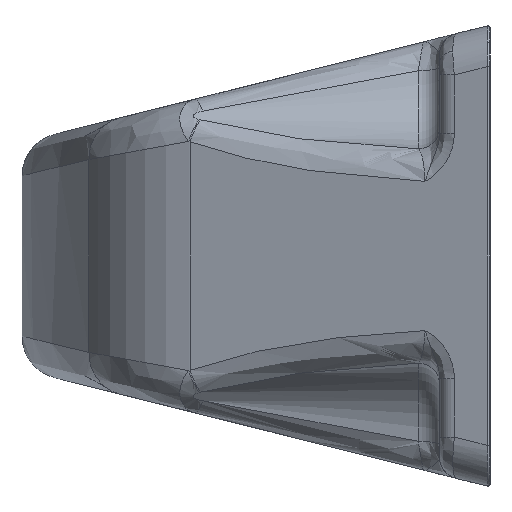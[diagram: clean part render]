
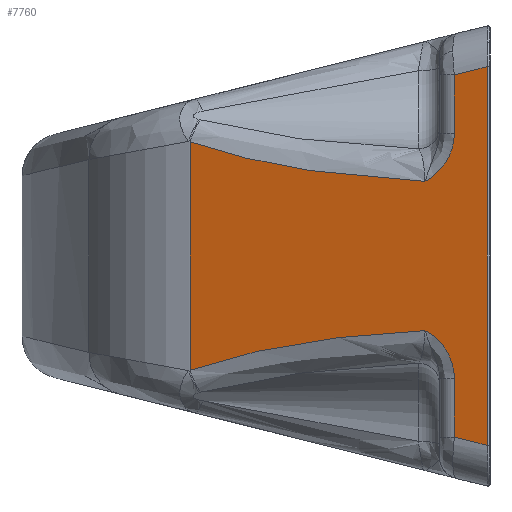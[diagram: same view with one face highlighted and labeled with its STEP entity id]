
A CAD part, left-side view. The second image highlights one B-rep face of the part: STEP entity #7760.
In plain terms, the highlighted planar face has unit normal (-0.949, 0.315, 0).
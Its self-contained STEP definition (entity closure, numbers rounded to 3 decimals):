
#208 = CARTESIAN_POINT ( 'NONE',  ( -0.27, -0.813, -39.496 ) ) ;
#301 = VERTEX_POINT ( 'NONE', #10303 ) ;
#384 = VERTEX_POINT ( 'NONE', #4967 ) ;
#432 = EDGE_CURVE ( 'NONE', #11619, #301, #6466, .T. ) ;
#598 = CARTESIAN_POINT ( 'NONE',  ( 1.281, 3.858, -12.334 ) ) ;
#642 = VECTOR ( 'NONE', #8807, 1000. ) ;
#747 = CARTESIAN_POINT ( 'NONE',  ( 1.54, 4.635, -29.624 ) ) ;
#1077 = VECTOR ( 'NONE', #11692, 1000. ) ;
#1112 = ORIENTED_EDGE ( 'NONE', *, *, #8259, .T. ) ;
#1218 = VECTOR ( 'NONE', #2797, 1000. ) ;
#1456 = EDGE_CURVE ( 'NONE', #9400, #384, #5860, .T. ) ;
#1556 = CARTESIAN_POINT ( 'NONE',  ( 1.397, 4.207, -12.931 ) ) ;
#1609 = ORIENTED_EDGE ( 'NONE', *, *, #1636, .T. ) ;
#1636 = EDGE_CURVE ( 'NONE', #11592, #9516, #7995, .T. ) ;
#1676 = FACE_OUTER_BOUND ( 'NONE', #10222, .T. ) ;
#1710 = CARTESIAN_POINT ( 'NONE',  ( 1.397, 4.207, -30.169 ) ) ;
#2112 = B_SPLINE_CURVE_WITH_KNOTS ( 'NONE', 3,
 ( #8176, #2476, #5361, #12070, #6331, #598, #7275, #1556, #8223, #2521, #9181, #3480, #10145, #4439, #11119, #5404, #12111, #6378 ),
 .UNSPECIFIED., .F., .F.,
 ( 4, 2, 2, 2, 2, 2, 2, 2, 4 ),
 ( 0., 0.001, 0.002, 0.003, 0.004, 0.004, 0.005, 0.005, 0.006 ),
 .UNSPECIFIED. ) ;
#2384 = LINE ( 'NONE', #7951, #4630 ) ;
#2476 = CARTESIAN_POINT ( 'NONE',  ( 1.106, 3.33, -10.55 ) ) ;
#2521 = CARTESIAN_POINT ( 'NONE',  ( 1.54, 4.635, -13.476 ) ) ;
#2669 = CARTESIAN_POINT ( 'NONE',  ( 1.281, 3.858, -30.766 ) ) ;
#2797 = DIRECTION ( 'NONE',  ( 0.307, 0.923, -0.231 ) ) ;
#2882 =( BOUNDED_CURVE ( )  B_SPLINE_CURVE ( 3, ( #3627, #11198, #11276, #5557 ),
 .UNSPECIFIED., .F., .F. ) 
 B_SPLINE_CURVE_WITH_KNOTS ( ( 4, 4 ),
 ( 4.834, 5.529 ),
 .UNSPECIFIED. ) 
 CURVE ( )  GEOMETRIC_REPRESENTATION_ITEM ( )  RATIONAL_B_SPLINE_CURVE ( ( 1., 0.96, 0.96, 1. ) ) 
 REPRESENTATION_ITEM ( '' )  );
#3060 = CARTESIAN_POINT ( 'NONE',  ( 0.087, 0.263, -3.808 ) ) ;
#3174 = EDGE_CURVE ( 'NONE', #301, #5972, #10760, .T. ) ;
#3405 = ORIENTED_EDGE ( 'NONE', *, *, #7318, .T. ) ;
#3467 = VERTEX_POINT ( 'NONE', #6788 ) ;
#3480 = CARTESIAN_POINT ( 'NONE',  ( 1.702, 5.125, -13.951 ) ) ;
#3596 = CARTESIAN_POINT ( 'NONE',  ( 1.106, 3.33, -38.458 ) ) ;
#3627 = CARTESIAN_POINT ( 'NONE',  ( 2.016, 6.07, -14.58 ) ) ;
#3628 = CARTESIAN_POINT ( 'NONE',  ( 1.192, 3.589, -31.412 ) ) ;
#3766 = LINE ( 'NONE', #6559, #1218 ) ;
#4058 = EDGE_CURVE ( 'NONE', #384, #3467, #2112, .T. ) ;
#4406 = ORIENTED_EDGE ( 'NONE', *, *, #4058, .T. ) ;
#4439 = CARTESIAN_POINT ( 'NONE',  ( 1.854, 5.581, -14.29 ) ) ;
#4593 = CARTESIAN_POINT ( 'NONE',  ( 1.106, 3.33, -32.55 ) ) ;
#4630 = VECTOR ( 'NONE', #6410, 1000. ) ;
#4926 = DIRECTION ( 'NONE',  ( 0., 0., -1. ) ) ;
#4967 = CARTESIAN_POINT ( 'NONE',  ( 1.106, 3.33, -10.077 ) ) ;
#5052 = DIRECTION ( 'NONE',  ( -0.315, -0.949, 0. ) ) ;
#5277 = CARTESIAN_POINT ( 'NONE',  ( 9.3, 28., -10.889 ) ) ;
#5361 = CARTESIAN_POINT ( 'NONE',  ( 1.128, 3.396, -11.012 ) ) ;
#5380 = ORIENTED_EDGE ( 'NONE', *, *, #1456, .T. ) ;
#5404 = CARTESIAN_POINT ( 'NONE',  ( 1.95, 5.871, -14.471 ) ) ;
#5516 = CARTESIAN_POINT ( 'NONE',  ( 1.883, 5.669, -28.733 ) ) ;
#5557 = CARTESIAN_POINT ( 'NONE',  ( 9.3, 28., -10.889 ) ) ;
#5629 = LINE ( 'NONE', #5854, #10400 ) ;
#5663 = B_SPLINE_CURVE_WITH_KNOTS ( 'NONE', 3,
 ( #11235, #5516, #12228, #6480, #747, #7433, #1710, #8376, #2669, #9339, #3628, #10308, #4593, #11277 ),
 .UNSPECIFIED., .F., .F.,
 ( 4, 2, 2, 2, 2, 2, 4 ),
 ( 0., 0.001, 0.002, 0.003, 0.004, 0.004, 0.006 ),
 .UNSPECIFIED. ) ;
#5726 = ORIENTED_EDGE ( 'NONE', *, *, #3174, .T. ) ;
#5736 = EDGE_CURVE ( 'NONE', #6376, #11619, #2384, .T. ) ;
#5854 = CARTESIAN_POINT ( 'NONE',  ( 9.3, 28., -162.2 ) ) ;
#5860 = LINE ( 'NONE', #9662, #8060 ) ;
#5972 = VERTEX_POINT ( 'NONE', #8895 ) ;
#5977 = PLANE ( 'NONE',  #8863 ) ;
#6331 = CARTESIAN_POINT ( 'NONE',  ( 1.219, 3.67, -11.91 ) ) ;
#6376 = VERTEX_POINT ( 'NONE', #8759 ) ;
#6378 = CARTESIAN_POINT ( 'NONE',  ( 2.016, 6.07, -14.58 ) ) ;
#6390 = CARTESIAN_POINT ( 'NONE',  ( 2.016, 6.07, -28.52 ) ) ;
#6410 = DIRECTION ( 'NONE',  ( 0., 0., -1. ) ) ;
#6466 = LINE ( 'NONE', #208, #1077 ) ;
#6480 = CARTESIAN_POINT ( 'NONE',  ( 1.592, 4.792, -29.458 ) ) ;
#6489 = CARTESIAN_POINT ( 'NONE',  ( 9.3, 28., -32.211 ) ) ;
#6559 = CARTESIAN_POINT ( 'NONE',  ( 1.291, 3.887, -4.782 ) ) ;
#6788 = CARTESIAN_POINT ( 'NONE',  ( 2.016, 6.07, -14.58 ) ) ;
#6811 = DIRECTION ( 'NONE',  ( 0., 0., 1. ) ) ;
#6930 = VERTEX_POINT ( 'NONE', #5277 ) ;
#7275 = CARTESIAN_POINT ( 'NONE',  ( 1.317, 3.965, -12.538 ) ) ;
#7318 = EDGE_CURVE ( 'NONE', #5972, #9400, #3766, .T. ) ;
#7385 = CARTESIAN_POINT ( 'NONE',  ( 1.106, 3.33, -4.642 ) ) ;
#7433 = CARTESIAN_POINT ( 'NONE',  ( 1.442, 4.343, -29.979 ) ) ;
#7760 = ADVANCED_FACE ( 'NONE', ( #1676 ), #5977, .T. ) ;
#7793 = ORIENTED_EDGE ( 'NONE', *, *, #9926, .T. ) ;
#7951 = CARTESIAN_POINT ( 'NONE',  ( 1.106, 3.33, -162.2 ) ) ;
#7995 =( BOUNDED_CURVE ( )  B_SPLINE_CURVE ( 3, ( #11984, #10157, #12122, #6390 ),
 .UNSPECIFIED., .F., .F. ) 
 B_SPLINE_CURVE_WITH_KNOTS ( ( 4, 4 ),
 ( 0.755, 1.449 ),
 .UNSPECIFIED. ) 
 CURVE ( )  GEOMETRIC_REPRESENTATION_ITEM ( )  RATIONAL_B_SPLINE_CURVE ( ( 1., 0.96, 0.96, 1. ) ) 
 REPRESENTATION_ITEM ( '' )  );
#8060 = VECTOR ( 'NONE', #4926, 1000. ) ;
#8138 = ORIENTED_EDGE ( 'NONE', *, *, #432, .T. ) ;
#8176 = CARTESIAN_POINT ( 'NONE',  ( 1.106, 3.33, -10.077 ) ) ;
#8223 = CARTESIAN_POINT ( 'NONE',  ( 1.442, 4.343, -13.121 ) ) ;
#8259 = EDGE_CURVE ( 'NONE', #9516, #6376, #5663, .T. ) ;
#8376 = CARTESIAN_POINT ( 'NONE',  ( 1.317, 3.965, -30.562 ) ) ;
#8759 = CARTESIAN_POINT ( 'NONE',  ( 1.106, 3.33, -33.023 ) ) ;
#8807 = DIRECTION ( 'NONE',  ( 0., 0., 1. ) ) ;
#8863 = AXIS2_PLACEMENT_3D ( 'NONE', #9785, #10751, #5052 ) ;
#8895 = CARTESIAN_POINT ( 'NONE',  ( 0.087, 0.263, -3.874 ) ) ;
#8919 = ORIENTED_EDGE ( 'NONE', *, *, #5736, .T. ) ;
#9181 = CARTESIAN_POINT ( 'NONE',  ( 1.592, 4.792, -13.642 ) ) ;
#9339 = CARTESIAN_POINT ( 'NONE',  ( 1.219, 3.67, -31.19 ) ) ;
#9400 = VERTEX_POINT ( 'NONE', #7385 ) ;
#9457 = CARTESIAN_POINT ( 'NONE',  ( 2.016, 6.07, -28.52 ) ) ;
#9516 = VERTEX_POINT ( 'NONE', #9457 ) ;
#9662 = CARTESIAN_POINT ( 'NONE',  ( 1.106, 3.33, -14.627 ) ) ;
#9785 = CARTESIAN_POINT ( 'NONE',  ( 0., 0., -162.2 ) ) ;
#9926 = EDGE_CURVE ( 'NONE', #3467, #6930, #2882, .T. ) ;
#10145 = CARTESIAN_POINT ( 'NONE',  ( 1.761, 5.301, -14.093 ) ) ;
#10157 = CARTESIAN_POINT ( 'NONE',  ( 7.358, 22.154, -30.146 ) ) ;
#10222 = EDGE_LOOP ( 'NONE', ( #8138, #5726, #3405, #5380, #4406, #7793, #10967, #1609, #1112, #8919 ) ) ;
#10303 = CARTESIAN_POINT ( 'NONE',  ( 0.087, 0.263, -39.226 ) ) ;
#10308 = CARTESIAN_POINT ( 'NONE',  ( 1.128, 3.396, -32.088 ) ) ;
#10400 = VECTOR ( 'NONE', #6811, 1000. ) ;
#10751 = DIRECTION ( 'NONE',  ( -0.949, 0.315, 0. ) ) ;
#10760 = LINE ( 'NONE', #3060, #642 ) ;
#10967 = ORIENTED_EDGE ( 'NONE', *, *, #12148, .F. ) ;
#11119 = CARTESIAN_POINT ( 'NONE',  ( 1.885, 5.677, -14.353 ) ) ;
#11198 = CARTESIAN_POINT ( 'NONE',  ( 4.83, 14.541, -14.236 ) ) ;
#11235 = CARTESIAN_POINT ( 'NONE',  ( 2.016, 6.07, -28.52 ) ) ;
#11276 = CARTESIAN_POINT ( 'NONE',  ( 7.358, 22.154, -12.954 ) ) ;
#11277 = CARTESIAN_POINT ( 'NONE',  ( 1.106, 3.33, -33.023 ) ) ;
#11592 = VERTEX_POINT ( 'NONE', #6489 ) ;
#11619 = VERTEX_POINT ( 'NONE', #3596 ) ;
#11692 = DIRECTION ( 'NONE',  ( -0.307, -0.923, -0.231 ) ) ;
#11984 = CARTESIAN_POINT ( 'NONE',  ( 9.3, 28., -32.211 ) ) ;
#12070 = CARTESIAN_POINT ( 'NONE',  ( 1.192, 3.589, -11.688 ) ) ;
#12111 = CARTESIAN_POINT ( 'NONE',  ( 1.983, 5.971, -14.528 ) ) ;
#12122 = CARTESIAN_POINT ( 'NONE',  ( 4.83, 14.541, -28.864 ) ) ;
#12148 = EDGE_CURVE ( 'NONE', #11592, #6930, #5629, .T. ) ;
#12228 = CARTESIAN_POINT ( 'NONE',  ( 1.757, 5.291, -28.995 ) ) ;
